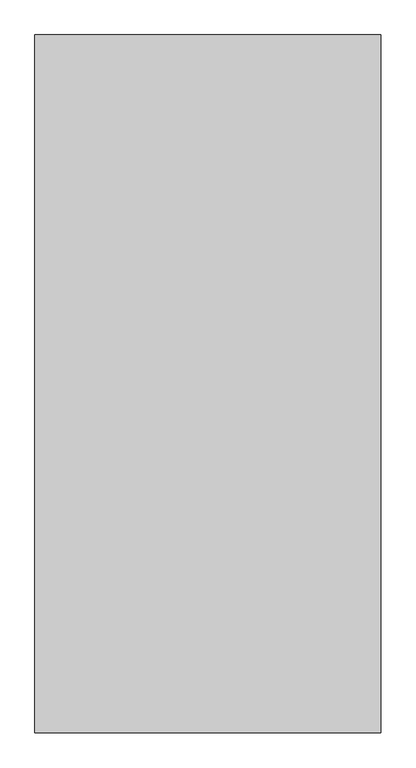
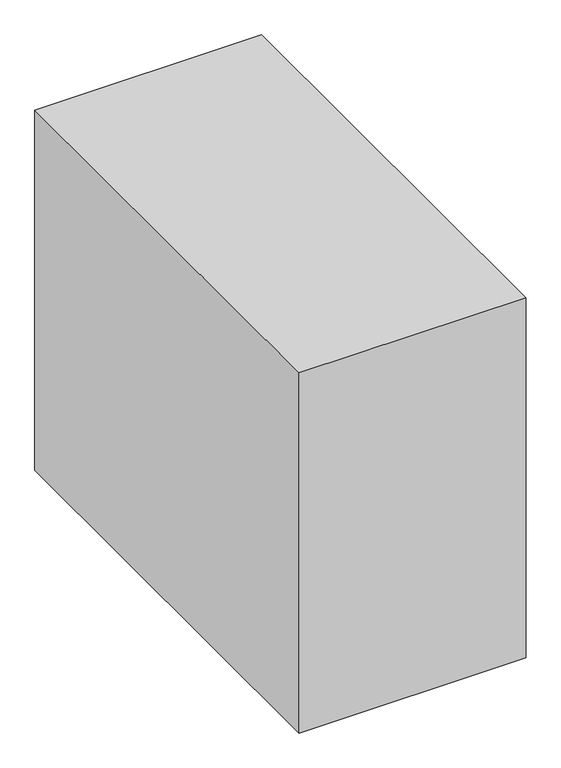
"""IFC4 building model written with IfcOpenShell, lengths in millimetres: proxy geometry."""

from ifc_helpers import new_model, si_unit, origin, origin_with_axes, place, context, project, spatial, polyline, outline, extrude, source, transform, mapped, element, save


def generic_models_d49b3f14(model_context):
    return source(origin(), model_context, "Body", "SweptSolid", [
        extrude(outline(polyline([(4200.2425049, -1824.0), (2690.2425049, -1824.0), (2690.2425049, 1224.0), (4200.2425049, 1224.0), (4200.2425049, -1824.0)])), origin_with_axes(), (0.0, 0.0, 1.0), 2535.0),
    ])


if __name__ == "__main__":
    model = new_model("IFC4")
    model_context = context("Model", 3, world=origin())
    ifc_project = project(units=[si_unit("LENGTHUNIT", "METRE", prefix="MILLI")], contexts=[model_context])
    site = spatial("IfcSite", under=ifc_project)
    building = spatial("IfcBuilding", under=site)
    placement = place(None, origin())
    generic_models_shape = generic_models_d49b3f14(model_context)
    element("IfcBuildingElementProxy", 1, Name="Generic Models", at=placement, inside=building, context=model_context, shape_type="MappedRepresentation", body=[
        mapped(generic_models_shape, transform((0.0, 0.0, 0.0), x_axis=(1.0, 0.0, 0.0), y_axis=(0.0, 1.0, 0.0), z_axis=(0.0, 0.0, 1.0))),
    ])
    save(model, "model.ifc")
